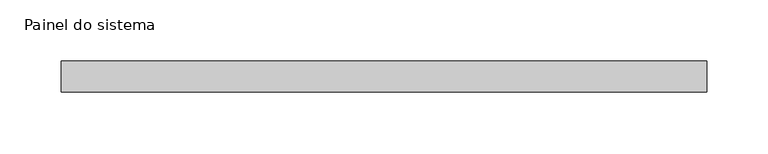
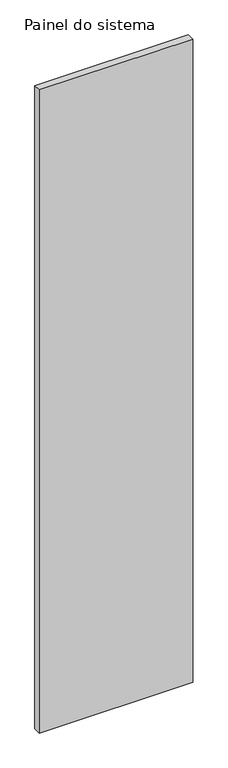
"""IFC4 building model written with IfcOpenShell, lengths in millimetres: plate geometry, Painel do sistema : Envidraçado."""

from ifc_helpers import new_model, si_unit, origin, origin_with_axes, place, context, project, spatial, polyline, outline, extrude, source, transform, mapped, element, save


def painel_do_sistema_b80b7cf7(model_context):
    return source(origin(), model_context, "Body", "SweptSolid", [
        extrude(outline(polyline([(262.5, 24.5), (-262.5, 24.5), (-262.5, 49.5), (262.5, 49.5), (262.5, 24.5)])), origin_with_axes(), (0.0, 0.0, 1.0), 2325.0),
    ])


if __name__ == "__main__":
    model = new_model("IFC4")
    model_context = context("Model", 3, world=origin())
    ifc_project = project(units=[si_unit("LENGTHUNIT", "METRE", prefix="MILLI")], contexts=[model_context])
    site = spatial("IfcSite", under=ifc_project)
    building = spatial("IfcBuilding", under=site)
    placement = place(None, origin())
    painel_do_sistema_shape = painel_do_sistema_b80b7cf7(model_context)
    element("IfcPlate", 1, ObjectType="Painel do sistema : Envidraçado", at=placement, inside=building, context=model_context, shape_type="MappedRepresentation", body=[
        mapped(painel_do_sistema_shape, transform((0.0, 0.0, 0.0), x_axis=(1.0, 0.0, 0.0), y_axis=(0.0, 1.0, 0.0), z_axis=(0.0, 0.0, 1.0))),
    ])
    save(model, "model.ifc")
